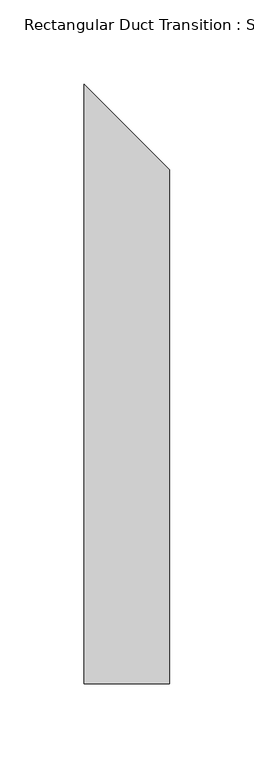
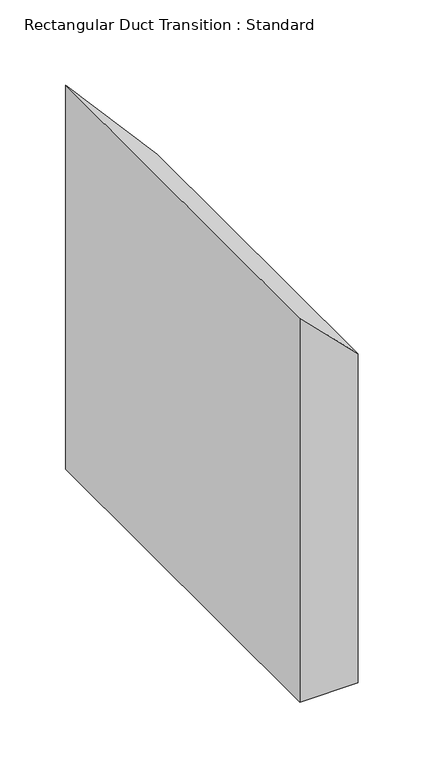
"""IFC4 building model written with IfcOpenShell, lengths in millimetres: duct fitting geometry, Rectangular Duct Transition : Standard."""

from ifc_helpers import new_model, si_unit, origin, place, context, project, spatial, faceted_brep, source, transform, mapped, element, save


def rectangular_duct_transition_standard_52f7afad(model_context):
    return source(origin(), model_context, "Body", "Brep", [
        faceted_brep([(50.8, -177.8, 127.0), (50.8, -177.8, -177.8), (50.8, 127.0, -177.8), (50.8, 127.0, 127.0), (0.0, -177.8, 177.8), (0.0, 177.8, 177.8), (0.0, 177.8, -177.8), (0.0, -177.8, -177.8)], [[[0, 1, 2, 3]], [[4, 5, 6, 7]], [[4, 7, 1, 0]], [[7, 6, 2, 1]], [[6, 5, 3, 2]], [[5, 4, 0, 3]]]),
        faceted_brep([(50.8, -177.8, 127.0), (50.8, -177.8, -177.8), (50.8, 127.0, -177.8), (50.8, 127.0, 127.0), (0.0, -177.8, 177.8), (0.0, 177.8, 177.8), (0.0, 177.8, -177.8), (0.0, -177.8, -177.8)], [[[0, 1, 2, 3]], [[4, 5, 6, 7]], [[4, 7, 1, 0]], [[7, 6, 2, 1]], [[6, 5, 3, 2]], [[5, 4, 0, 3]]]),
        faceted_brep([(50.8, -177.8, 127.0), (50.8, -177.8, -177.8), (50.8, 127.0, -177.8), (50.8, 127.0, 127.0), (0.0, -177.8, 177.8), (0.0, 177.8, 177.8), (0.0, 177.8, -177.8), (0.0, -177.8, -177.8)], [[[0, 1, 2, 3]], [[4, 5, 6, 7]], [[4, 7, 1, 0]], [[7, 6, 2, 1]], [[6, 5, 3, 2]], [[5, 4, 0, 3]]]),
    ])


if __name__ == "__main__":
    model = new_model("IFC4")
    model_context = context("Model", 3, world=origin())
    ifc_project = project(units=[si_unit("LENGTHUNIT", "METRE", prefix="MILLI")], contexts=[model_context])
    site = spatial("IfcSite", under=ifc_project)
    building = spatial("IfcBuilding", under=site)
    placement = place(None, origin())
    rectangular_duct_transition_standard_shape = rectangular_duct_transition_standard_52f7afad(model_context)
    element("IfcDuctFitting", 1, ObjectType="Rectangular Duct Transition : Standard", at=placement, inside=building, context=model_context, shape_type="MappedRepresentation", body=[
        mapped(rectangular_duct_transition_standard_shape, transform((0.0, 0.0, 0.0), x_axis=(1.0, 0.0, 0.0), y_axis=(0.0, 1.0, 0.0), z_axis=(0.0, 0.0, 1.0))),
    ])
    save(model, "model.ifc")
